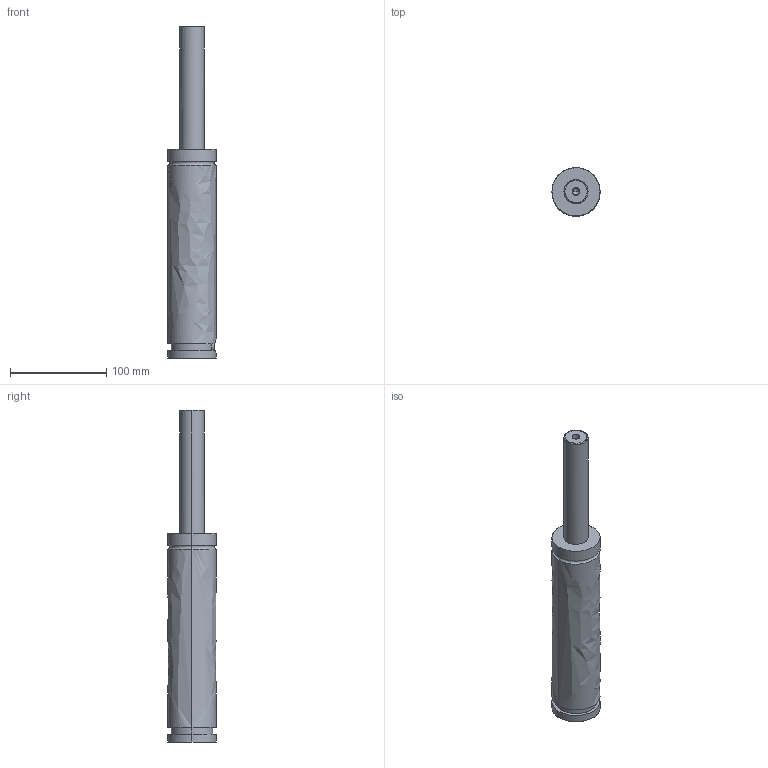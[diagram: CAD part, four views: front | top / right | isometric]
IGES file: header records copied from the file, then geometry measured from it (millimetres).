
Global section: file name: E:\UnigraphicsGraphicData\MISUMI_PRESS-PARTS\IGES\3d_gse50-125_03889_r00.igs; native system: NX V5.0; preprocessor: UGS NX IGES V5.0; author: MISUMI; date: 20110105.160758; units: millimetre
Bounding box: 50 x 50 x 345 mm (x, y, z)
Surface area: 50583.7 mm2 (no closed solid volume)
Topology: 0 solids, 0 shells, 57 faces, 453 edges, 451 vertices
Faces by surface type: bspline 57
